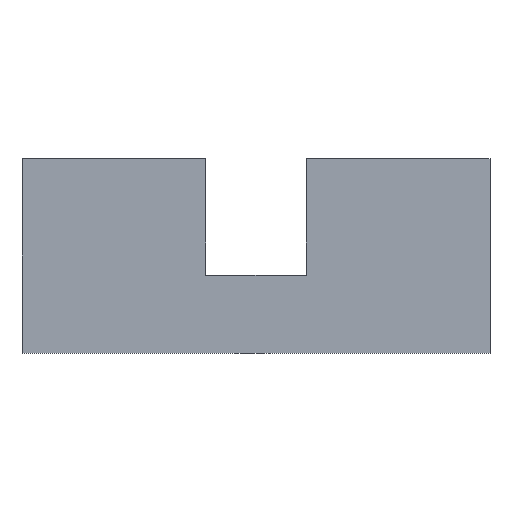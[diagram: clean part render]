
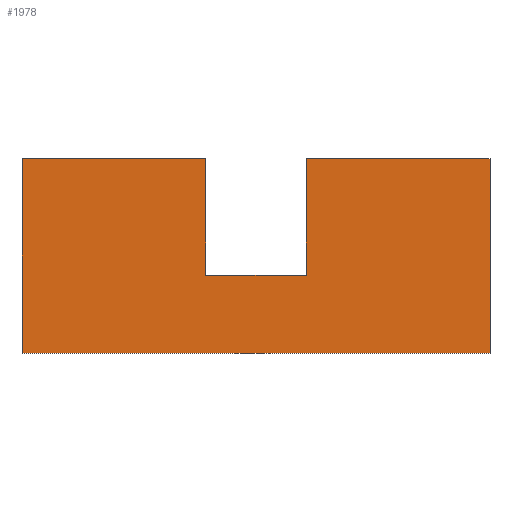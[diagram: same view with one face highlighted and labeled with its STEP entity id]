
A CAD part, left-side view. The second image highlights one B-rep face of the part: STEP entity #1978.
In plain terms, the highlighted planar face has unit normal (-1, 0, 0).
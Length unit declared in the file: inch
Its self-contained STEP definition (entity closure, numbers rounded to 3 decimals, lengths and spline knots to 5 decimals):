
#92=FACE_OUTER_BOUND('',#195,.T.);
#195=EDGE_LOOP('',(#1605,#1606,#1607,#1608,#1609,#1610,#1611,#1612));
#413=LINE('',#3000,#689);
#414=LINE('',#3002,#690);
#415=LINE('',#3004,#691);
#416=LINE('',#3006,#692);
#417=LINE('',#3008,#693);
#418=LINE('',#3010,#694);
#419=LINE('',#3012,#695);
#420=LINE('',#3013,#696);
#689=VECTOR('',#2456,0.3937);
#690=VECTOR('',#2457,0.3937);
#691=VECTOR('',#2458,0.3937);
#692=VECTOR('',#2459,0.3937);
#693=VECTOR('',#2460,0.3937);
#694=VECTOR('',#2461,0.3937);
#695=VECTOR('',#2462,0.3937);
#696=VECTOR('',#2463,0.3937);
#905=VERTEX_POINT('',#2998);
#906=VERTEX_POINT('',#2999);
#907=VERTEX_POINT('',#3001);
#908=VERTEX_POINT('',#3003);
#909=VERTEX_POINT('',#3005);
#910=VERTEX_POINT('',#3007);
#911=VERTEX_POINT('',#3009);
#912=VERTEX_POINT('',#3011);
#1149=EDGE_CURVE('',#905,#906,#413,.T.);
#1150=EDGE_CURVE('',#907,#905,#414,.T.);
#1151=EDGE_CURVE('',#908,#907,#415,.T.);
#1152=EDGE_CURVE('',#909,#908,#416,.T.);
#1153=EDGE_CURVE('',#910,#909,#417,.T.);
#1154=EDGE_CURVE('',#911,#910,#418,.T.);
#1155=EDGE_CURVE('',#912,#911,#419,.T.);
#1156=EDGE_CURVE('',#906,#912,#420,.T.);
#1605=ORIENTED_EDGE('',*,*,#1149,.F.);
#1606=ORIENTED_EDGE('',*,*,#1150,.F.);
#1607=ORIENTED_EDGE('',*,*,#1151,.F.);
#1608=ORIENTED_EDGE('',*,*,#1152,.F.);
#1609=ORIENTED_EDGE('',*,*,#1153,.F.);
#1610=ORIENTED_EDGE('',*,*,#1154,.F.);
#1611=ORIENTED_EDGE('',*,*,#1155,.F.);
#1612=ORIENTED_EDGE('',*,*,#1156,.F.);
#1877=PLANE('',#2105);
#1978=ADVANCED_FACE('',(#92),#1877,.T.);
#2105=AXIS2_PLACEMENT_3D('',#2997,#2454,#2455);
#2454=DIRECTION('center_axis',(-1.,0.,0.));
#2455=DIRECTION('ref_axis',(0.,0.,1.));
#2456=DIRECTION('',(0.,0.,-1.));
#2457=DIRECTION('',(0.,-1.,0.));
#2458=DIRECTION('',(0.,0.,1.));
#2459=DIRECTION('',(0.,1.,0.));
#2460=DIRECTION('',(0.,0.,-1.));
#2461=DIRECTION('',(0.,-1.,0.));
#2462=DIRECTION('',(0.,0.,1.));
#2463=DIRECTION('',(0.,-1.,0.));
#2997=CARTESIAN_POINT('Origin',(2.97765,2.08995,0.6185));
#2998=CARTESIAN_POINT('',(2.97765,3.89745,1.237));
#2999=CARTESIAN_POINT('',(2.97765,3.89745,0.497));
#3000=CARTESIAN_POINT('',(2.97765,3.89745,1.237));
#3001=CARTESIAN_POINT('',(2.97765,5.06495,1.237));
#3002=CARTESIAN_POINT('',(2.97765,5.06495,1.237));
#3003=CARTESIAN_POINT('',(2.97765,5.06495,0.));
#3004=CARTESIAN_POINT('',(2.97765,5.06495,0.));
#3005=CARTESIAN_POINT('',(2.97765,2.08995,0.));
#3006=CARTESIAN_POINT('',(2.97765,2.08995,0.));
#3007=CARTESIAN_POINT('',(2.97765,2.08995,1.237));
#3008=CARTESIAN_POINT('',(2.97765,2.08995,1.237));
#3009=CARTESIAN_POINT('',(2.97765,3.25745,1.237));
#3010=CARTESIAN_POINT('',(2.97765,3.25745,1.237));
#3011=CARTESIAN_POINT('',(2.97765,3.25745,0.497));
#3012=CARTESIAN_POINT('',(2.97765,3.25745,0.497));
#3013=CARTESIAN_POINT('',(2.97765,3.89745,0.497));
